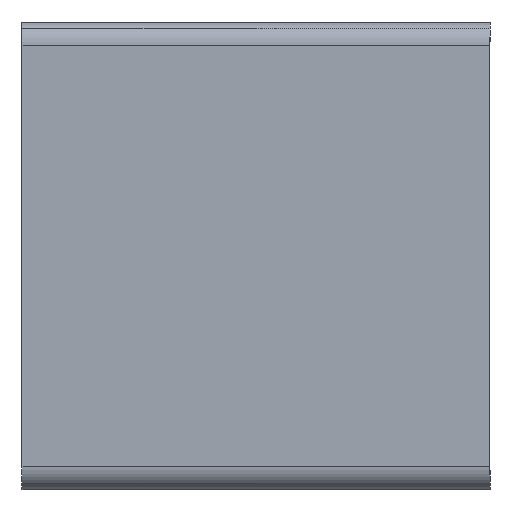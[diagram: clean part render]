
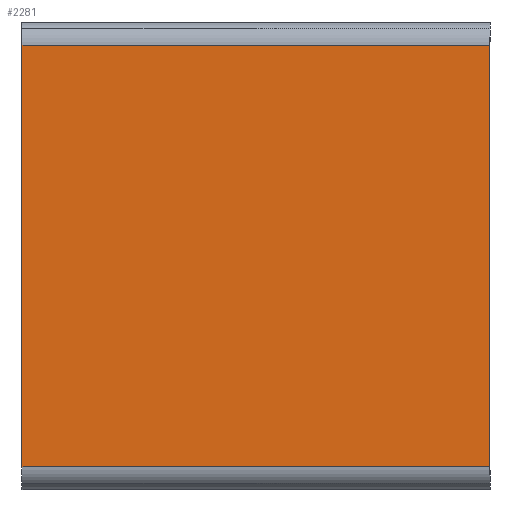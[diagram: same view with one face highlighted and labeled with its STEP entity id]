
A CAD part, front view. The second image highlights one B-rep face of the part: STEP entity #2281.
In plain terms, the highlighted planar face has unit normal (0, -1, 0).
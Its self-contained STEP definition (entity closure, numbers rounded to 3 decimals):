
#1502=CARTESIAN_POINT('',(-20.,-42.,9.0));
#1503=VERTEX_POINT('',#1502);
#1511=CARTESIAN_POINT('',(-20.,-42.,-9.));
#1512=VERTEX_POINT('',#1511);
#1513=CARTESIAN_POINT('',(-20.,-42.,-9.));
#1514=DIRECTION('',(0.0,0.0,1.0));
#1515=VECTOR('',#1514,18.0);
#1516=LINE('',#1513,#1515);
#1517=EDGE_CURVE('',#1512,#1503,#1516,.T.);
#2239=CARTESIAN_POINT('',(-40.,-42.,9.0));
#2240=VERTEX_POINT('',#2239);
#2248=CARTESIAN_POINT('',(-40.,-42.,9.0));
#2249=DIRECTION('',(1.0,0.0,0.0));
#2250=VECTOR('',#2249,20.0);
#2251=LINE('',#2248,#2250);
#2252=EDGE_CURVE('',#2240,#1503,#2251,.T.);
#2258=CARTESIAN_POINT('',(-20.,-42.,-10.0));
#2259=DIRECTION('',(0.0,-1.0,0.0));
#2260=DIRECTION('',(0.0,0.0,-1.0));
#2261=AXIS2_PLACEMENT_3D('',#2258,#2259,#2260);
#2262=PLANE('',#2261);
#2263=ORIENTED_EDGE('',*,*,#2252,.F.);
#2264=CARTESIAN_POINT('',(-40.,-42.,-9.));
#2265=VERTEX_POINT('',#2264);
#2266=CARTESIAN_POINT('',(-40.,-42.,-9.));
#2267=DIRECTION('',(0.0,0.0,1.0));
#2268=VECTOR('',#2267,18.0);
#2269=LINE('',#2266,#2268);
#2270=EDGE_CURVE('',#2265,#2240,#2269,.T.);
#2271=ORIENTED_EDGE('',*,*,#2270,.F.);
#2272=CARTESIAN_POINT('',(-20.,-42.,-9.));
#2273=DIRECTION('',(-1.0,0.0,0.0));
#2274=VECTOR('',#2273,20.0);
#2275=LINE('',#2272,#2274);
#2276=EDGE_CURVE('',#1512,#2265,#2275,.T.);
#2277=ORIENTED_EDGE('',*,*,#2276,.F.);
#2278=ORIENTED_EDGE('',*,*,#1517,.T.);
#2279=EDGE_LOOP('',(#2263,#2271,#2277,#2278));
#2280=FACE_OUTER_BOUND('',#2279,.T.);
#2281=ADVANCED_FACE('',(#2280),#2262,.T.);
